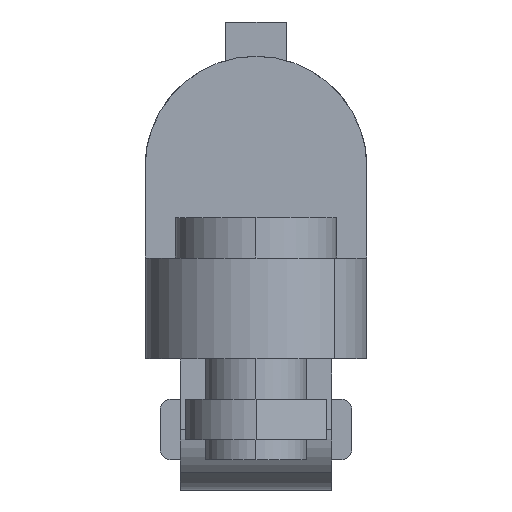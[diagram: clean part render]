
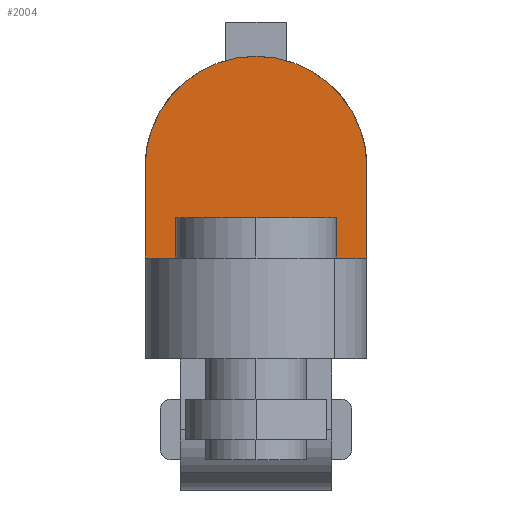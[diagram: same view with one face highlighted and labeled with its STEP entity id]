
A CAD part, left-side view. The second image highlights one B-rep face of the part: STEP entity #2004.
In plain terms, the highlighted planar face has unit normal (-1, 0, 0).
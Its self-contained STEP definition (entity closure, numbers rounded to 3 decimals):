
#2004=ADVANCED_FACE('',(#3641),#3642,.F.);
#3641=FACE_OUTER_BOUND('',#6083,.T.);
#3642=PLANE('',#6084);
#6083=EDGE_LOOP('',(#7430,#7431,#7432,#7433,#7434));
#6084=AXIS2_PLACEMENT_3D('',#7435,#7436,#7437);
#7430=ORIENTED_EDGE('',*,*,#10559,.F.);
#7431=ORIENTED_EDGE('',*,*,#10552,.T.);
#7432=ORIENTED_EDGE('',*,*,#10548,.F.);
#7433=ORIENTED_EDGE('',*,*,#10507,.F.);
#7434=ORIENTED_EDGE('',*,*,#10560,.F.);
#7435=CARTESIAN_POINT('',(6.0,393.876,4.5));
#7436=DIRECTION('',(1.0,0.0,-0.0));
#7437=DIRECTION('',(0.0,0.0,1.0));
#10507=EDGE_CURVE('',#11985,#11988,#11989,.T.);
#10548=EDGE_CURVE('',#11988,#12053,#12054,.T.);
#10552=EDGE_CURVE('',#12058,#12053,#12059,.T.);
#10559=EDGE_CURVE('',#12058,#12068,#12069,.T.);
#10560=EDGE_CURVE('',#12068,#11985,#12070,.T.);
#11985=VERTEX_POINT('',#13139);
#11988=VERTEX_POINT('',#13143);
#11989=CIRCLE('',#13144,5.5);
#12053=VERTEX_POINT('',#13223);
#12054=LINE('',#13224,#13225);
#12058=VERTEX_POINT('',#13231);
#12059=LINE('',#13232,#13233);
#12068=VERTEX_POINT('',#13244);
#12069=LINE('',#13245,#13246);
#12070=CIRCLE('',#13247,5.5);
#13139=CARTESIAN_POINT('',(6.0,0.,15.0));
#13143=CARTESIAN_POINT('',(6.0,-5.5,9.5));
#13144=AXIS2_PLACEMENT_3D('',#14815,#14816,#14817);
#13223=CARTESIAN_POINT('',(6.0,-5.5,5.0));
#13224=CARTESIAN_POINT('',(6.0,-5.5,7.0));
#13225=VECTOR('',#14881,1.0);
#13231=CARTESIAN_POINT('',(6.0,5.5,5.0));
#13232=CARTESIAN_POINT('',(6.0,393.876,5.0));
#13233=VECTOR('',#14884,1.0);
#13244=CARTESIAN_POINT('',(6.0,5.5,9.5));
#13245=CARTESIAN_POINT('',(6.0,5.5,2.25));
#13246=VECTOR('',#14893,1.0);
#13247=AXIS2_PLACEMENT_3D('',#14894,#14895,#14896);
#14815=CARTESIAN_POINT('',(6.0,0.0,9.5));
#14816=DIRECTION('',(1.0,0.0,-0.0));
#14817=DIRECTION('',(0.0,0.0,1.0));
#14881=DIRECTION('',(0.0,0.0,-1.0));
#14884=DIRECTION('',(0.0,-1.0,0.0));
#14893=DIRECTION('',(0.0,0.0,1.0));
#14894=CARTESIAN_POINT('',(6.0,0.0,9.5));
#14895=DIRECTION('',(1.0,0.0,-0.0));
#14896=DIRECTION('',(0.0,0.0,1.0));
